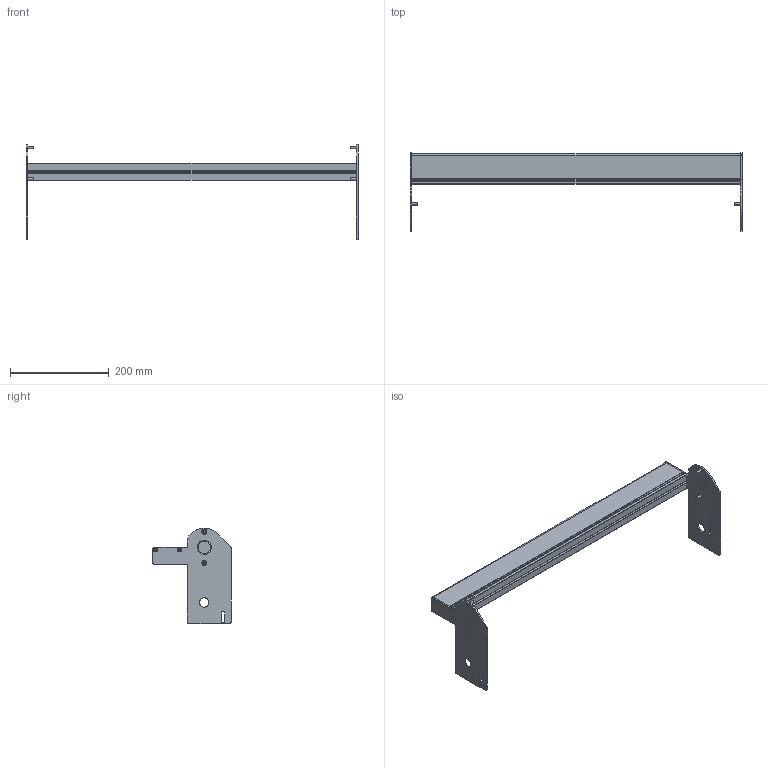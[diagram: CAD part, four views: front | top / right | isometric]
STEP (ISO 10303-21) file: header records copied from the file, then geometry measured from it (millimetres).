
FILE_DESCRIPTION((''),'2;1');
FILE_NAME('350712-26_ASM','2023-03-22T',('jenni.wallner'),(''),'PRO/ENGINEER BY PARAMETRIC TECHNOLOGY CORPORATION, 2012420','PRO/ENGINEER BY PARAMETRIC TECHNOLOGY CORPORATION, 2012420','');
FILE_SCHEMA(('CONFIG_CONTROL_DESIGN'));
Length unit declared in the file: inch
Products named in the file (6): 350669-26; 350667; 350668; 930412M; 930516M; 350712-26_ASM
Assembly tree (11 placements, depth 2):
  350712-26_ASM
    350669-26
    350667
    350668
    930412M  x4
    930516M  x4
Bounding box: 672.74 x 158.09 x 193.27 mm (x, y, z)
Volume: 638619.4 mm3; surface area: 417389.8 mm2
Topology: 11 solids, 11 shells, 334 faces, 872 edges, 568 vertices
Faces by surface type: plane 150, cylinder 136, cone 48
Entity records: 7773 total; most frequent: DIRECTION 1398, CARTESIAN_POINT 1317, ORIENTED_EDGE 1288, EDGE_CURVE 644, AXIS2_PLACEMENT_3D 505, VERTEX_POINT 424, VECTOR 388, LINE 388
